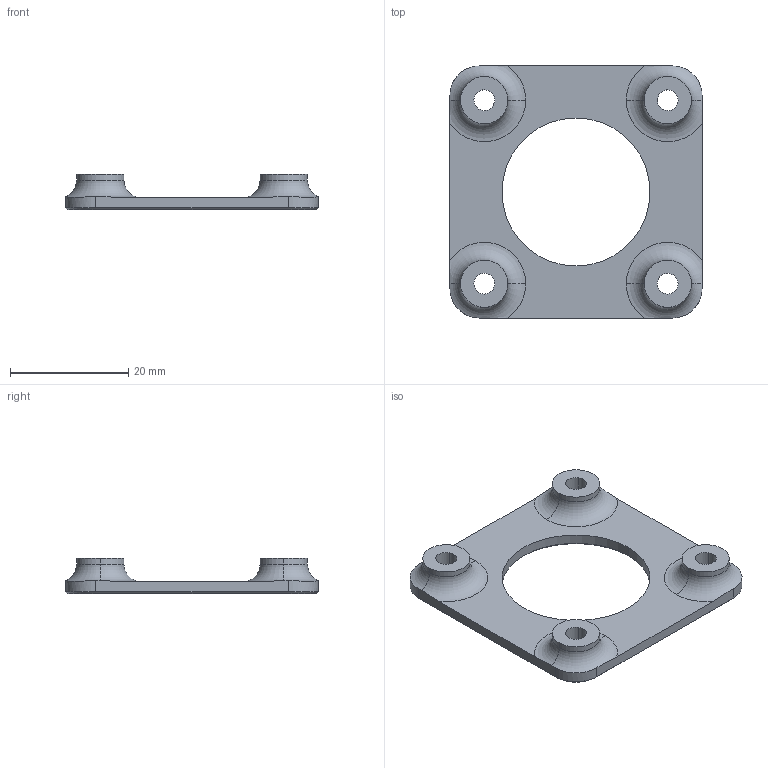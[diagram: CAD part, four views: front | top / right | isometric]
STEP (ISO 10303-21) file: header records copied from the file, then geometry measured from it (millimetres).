
FILE_DESCRIPTION(('CATIA V5 STEP Exchange'),'2;1');
FILE_NAME('C:\Users\loren\Desktop\BONUS_CLIP\COMMON PARTS\SUPPORTO_SCHEDA_Dadi.stp','2021-06-19T11:28:43+00:00',('none'),('none'),'CATIA Version 5 Release 20 SP 1 (IN-10)','CATIA V5 STEP AP214','none');
FILE_SCHEMA(('AUTOMOTIVE_DESIGN { 1 0 10303 214 1 1 1 1 }'));
Length unit declared in the file: millimetre
Products named in the file (1): Separador_PCB_Insertos
Bounding box: 42.6 x 42.6 x 6 mm (x, y, z)
Volume: 3276.4 mm3; surface area: 3570.5 mm2
Topology: 1 solids, 1 shells, 80 faces, 194 edges, 118 vertices
Faces by surface type: plane 40, cylinder 22, cone 10, torus 8
Entity records: 2253 total; most frequent: CARTESIAN_POINT 461, ORIENTED_EDGE 388, DIRECTION 302, EDGE_CURVE 194, AXIS2_PLACEMENT_3D 135, VERTEX_POINT 118, VECTOR 100, LINE 100
